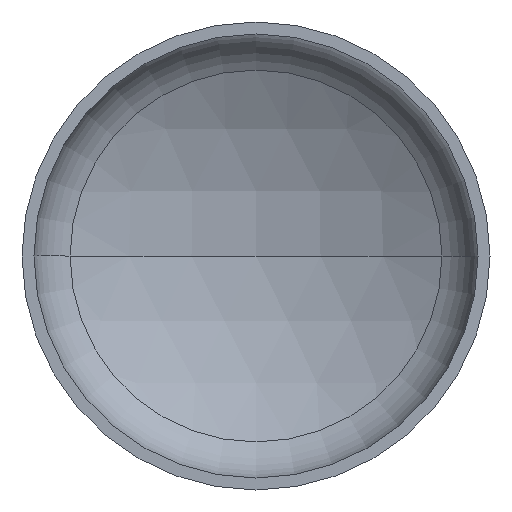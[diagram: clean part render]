
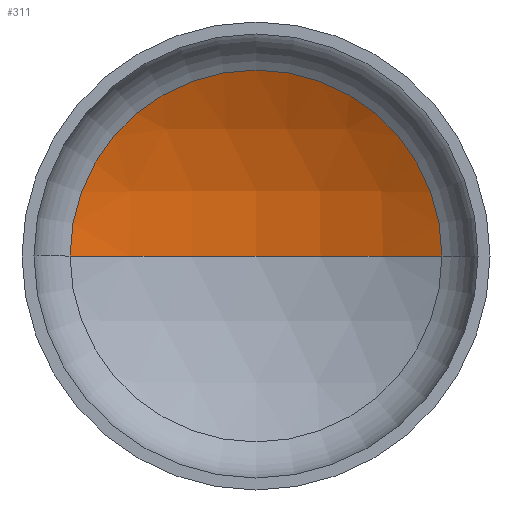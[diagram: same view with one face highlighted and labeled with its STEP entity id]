
A CAD part, front view. The second image highlights one B-rep face of the part: STEP entity #311.
In plain terms, the highlighted spherical face has radius 2560 mm.
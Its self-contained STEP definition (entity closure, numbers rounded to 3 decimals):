
#2 = DIRECTION ( 'NONE',  ( 0., -1., 0. ) ) ;
#5 = AXIS2_PLACEMENT_3D ( 'NONE', #174, #279, #201 ) ;
#9 = AXIS2_PLACEMENT_3D ( 'NONE', #393, #48, #169 ) ;
#11 = DIRECTION ( 'NONE',  ( 0., 0., -1. ) ) ;
#12 = EDGE_LOOP ( 'NONE', ( #137, #75, #142 ) ) ;
#19 = CARTESIAN_POINT ( 'NONE',  ( 0., -1696.696, 0. ) ) ;
#45 = AXIS2_PLACEMENT_3D ( 'NONE', #19, #11, #46 ) ;
#46 = DIRECTION ( 'NONE',  ( -1., 0., 0. ) ) ;
#48 = DIRECTION ( 'NONE',  ( 0., 0., -1. ) ) ;
#49 = AXIS2_PLACEMENT_3D ( 'NONE', #332, #2, #395 ) ;
#75 = ORIENTED_EDGE ( 'NONE', *, *, #114, .T. ) ;
#94 = VERTEX_POINT ( 'NONE', #240 ) ;
#103 = VERTEX_POINT ( 'NONE', #381 ) ;
#111 = EDGE_CURVE ( 'NONE', #103, #94, #349, .T. ) ;
#114 = EDGE_CURVE ( 'NONE', #131, #103, #280, .T. ) ;
#131 = VERTEX_POINT ( 'NONE', #215 ) ;
#137 = ORIENTED_EDGE ( 'NONE', *, *, #360, .F. ) ;
#142 = ORIENTED_EDGE ( 'NONE', *, *, #111, .T. ) ;
#169 = DIRECTION ( 'NONE',  ( -1., 0., 0. ) ) ;
#174 = CARTESIAN_POINT ( 'NONE',  ( 0., -1696.696, 0. ) ) ;
#201 = DIRECTION ( 'NONE',  ( 1., 0., 0. ) ) ;
#215 = CARTESIAN_POINT ( 'NONE',  ( 0., 863.304, 0. ) ) ;
#240 = CARTESIAN_POINT ( 'NONE',  ( -1271.343, 525.305, 0. ) ) ;
#254 = CIRCLE ( 'NONE', #5, 2560. ) ;
#264 = FACE_OUTER_BOUND ( 'NONE', #12, .T. ) ;
#279 = DIRECTION ( 'NONE',  ( 0., 0., 1. ) ) ;
#280 = CIRCLE ( 'NONE', #45, 2560. ) ;
#311 = ADVANCED_FACE ( 'NONE', ( #264 ), #392, .F. ) ;
#332 = CARTESIAN_POINT ( 'NONE',  ( 0., 525.305, 0. ) ) ;
#349 = CIRCLE ( 'NONE', #49, 1271.343 ) ;
#360 = EDGE_CURVE ( 'NONE', #131, #94, #254, .T. ) ;
#381 = CARTESIAN_POINT ( 'NONE',  ( 1271.343, 525.305, 0. ) ) ;
#392 = SPHERICAL_SURFACE ( 'NONE', #9, 2560. ) ;
#393 = CARTESIAN_POINT ( 'NONE',  ( 0., -1696.696, 0. ) ) ;
#395 = DIRECTION ( 'NONE',  ( 1., 0., 0. ) ) ;
